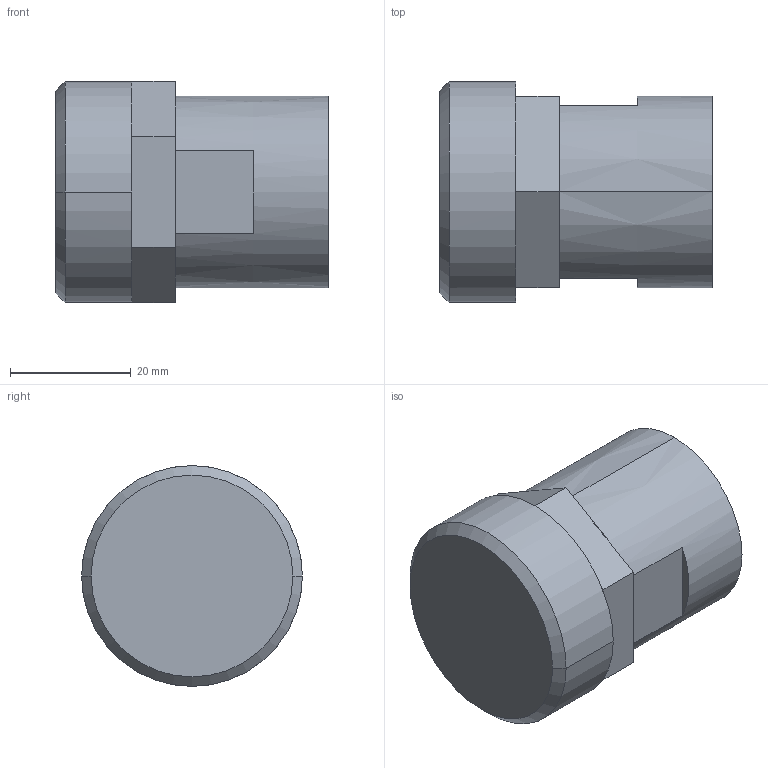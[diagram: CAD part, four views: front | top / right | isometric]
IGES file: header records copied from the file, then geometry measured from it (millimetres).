
Start section: SolidWorks IGES file using analytic representation for surfaces
Global section: file name: S:\Product Visuals\REVISED-30L-TOP-MOUNT-FITTINGS\IGS\top-straight-outlet-only\fnpt\04-fnpt-with-top-mount-adapter.IGS; native system: SolidWorks 2012; preprocessor: SolidWorks 2012; author: rachel.dressel; date: 121127.155914; units: inch
Bounding box: 45.24 x 36.6 x 36.66 mm (x, y, z)
Volume: 38002 mm3; surface area: 7231.2 mm2
Topology: 1 solids, 1 shells, 39 faces, 88 edges, 52 vertices
Faces by surface type: plane 29, revolution 10
